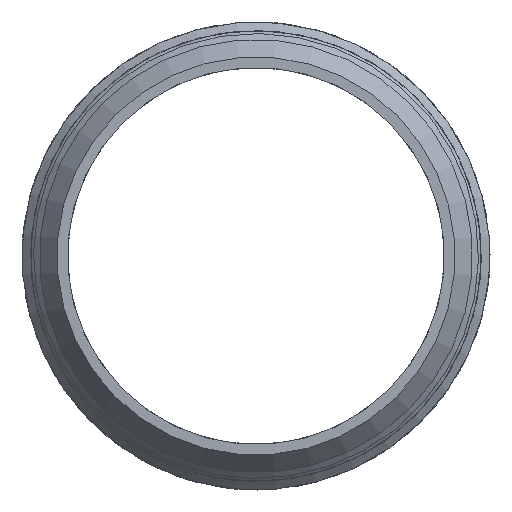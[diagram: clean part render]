
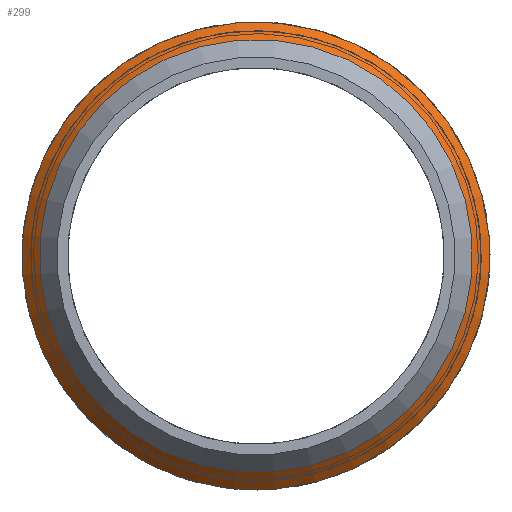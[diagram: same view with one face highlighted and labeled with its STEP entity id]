
A CAD part, front view. The second image highlights one B-rep face of the part: STEP entity #299.
In plain terms, the highlighted conical face has half-angle 45 degrees and reference radius 31.375 mm.
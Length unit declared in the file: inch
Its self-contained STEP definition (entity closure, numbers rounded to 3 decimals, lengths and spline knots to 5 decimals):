
#11=CONICAL_SURFACE('',#341,1.23525,45.);
#44=FACE_BOUND('',#105,.T.);
#68=FACE_OUTER_BOUND('',#104,.T.);
#104=EDGE_LOOP('',(#224));
#105=EDGE_LOOP('',(#225));
#140=CIRCLE('',#342,1.1875);
#141=CIRCLE('',#343,1.283);
#164=VERTEX_POINT('',#501);
#165=VERTEX_POINT('',#503);
#188=EDGE_CURVE('',#164,#164,#140,.T.);
#189=EDGE_CURVE('',#165,#165,#141,.T.);
#224=ORIENTED_EDGE('',*,*,#188,.F.);
#225=ORIENTED_EDGE('',*,*,#189,.F.);
#299=ADVANCED_FACE('',(#68,#44),#11,.T.);
#341=AXIS2_PLACEMENT_3D('',#500,#415,#416);
#342=AXIS2_PLACEMENT_3D('',#502,#417,#418);
#343=AXIS2_PLACEMENT_3D('',#504,#419,#420);
#415=DIRECTION('center_axis',(0.,1.,0.));
#416=DIRECTION('ref_axis',(0.262,0.,0.965));
#417=DIRECTION('center_axis',(0.,-1.,0.));
#418=DIRECTION('ref_axis',(0.965,0.,-0.262));
#419=DIRECTION('center_axis',(0.,1.,0.));
#420=DIRECTION('ref_axis',(0.262,0.,0.965));
#500=CARTESIAN_POINT('Origin',(0.,1.32725,0.));
#501=CARTESIAN_POINT('',(0.31066,1.2795,1.14614));
#502=CARTESIAN_POINT('Origin',(0.,1.2795,0.));
#503=CARTESIAN_POINT('',(0.33565,1.375,1.23832));
#504=CARTESIAN_POINT('Origin',(0.,1.375,0.));
